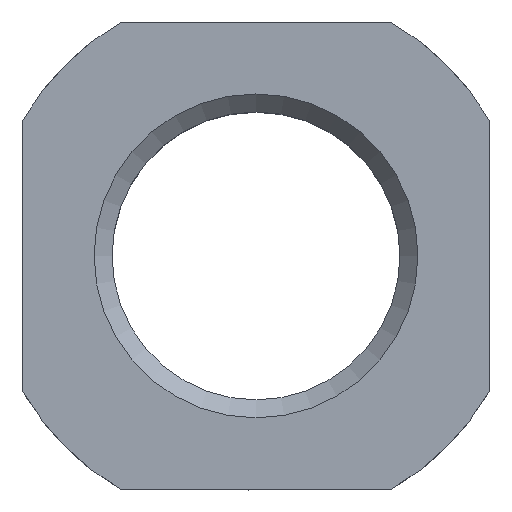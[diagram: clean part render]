
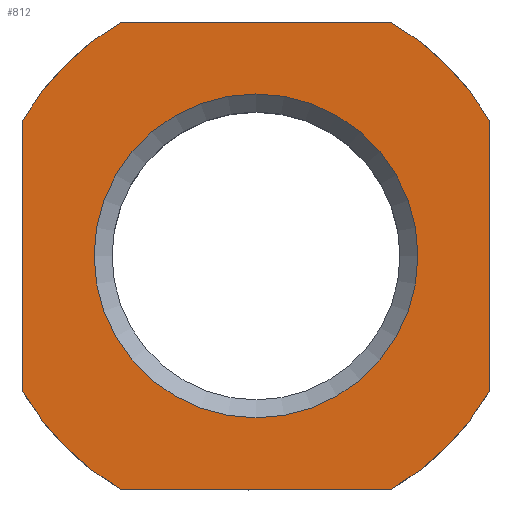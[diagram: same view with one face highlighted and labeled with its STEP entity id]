
A CAD part, top view. The second image highlights one B-rep face of the part: STEP entity #812.
In plain terms, the highlighted planar face has unit normal (0, 0, 1).
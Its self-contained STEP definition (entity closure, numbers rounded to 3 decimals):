
#9 = CARTESIAN_POINT ( 'NONE',  ( -10.242, 13., 6. ) ) ;
#17 = EDGE_CURVE ( 'NONE', #730, #458, #914, .T. ) ;
#21 = AXIS2_PLACEMENT_3D ( 'NONE', #160, #854, #777 ) ;
#25 = VECTOR ( 'NONE', #85, 1000. ) ;
#31 = EDGE_CURVE ( 'NONE', #284, #472, #981, .T. ) ;
#33 = CARTESIAN_POINT ( 'NONE',  ( -13., 0., 6. ) ) ;
#36 = CARTESIAN_POINT ( 'NONE',  ( 0., 13., 6. ) ) ;
#40 = DIRECTION ( 'NONE',  ( 0., 0., 1. ) ) ;
#60 = VERTEX_POINT ( 'NONE', #223 ) ;
#85 = DIRECTION ( 'NONE',  ( 0., 1., 0. ) ) ;
#100 = FACE_OUTER_BOUND ( 'NONE', #230, .T. ) ;
#108 = AXIS2_PLACEMENT_3D ( 'NONE', #33, #330, #151 ) ;
#129 = EDGE_CURVE ( 'NONE', #472, #943, #265, .T. ) ;
#135 = ORIENTED_EDGE ( 'NONE', *, *, #621, .T. ) ;
#141 = LINE ( 'NONE', #540, #929 ) ;
#142 = EDGE_CURVE ( 'NONE', #376, #376, #653, .T. ) ;
#151 = DIRECTION ( 'NONE',  ( 1., 0., 0. ) ) ;
#160 = CARTESIAN_POINT ( 'NONE',  ( -6.5, 6.5, 6. ) ) ;
#174 = VECTOR ( 'NONE', #568, 1000. ) ;
#190 = VECTOR ( 'NONE', #870, 1000. ) ;
#192 = DIRECTION ( 'NONE',  ( 1., 0., 0. ) ) ;
#202 = DIRECTION ( 'NONE',  ( 1., 0., 0. ) ) ;
#223 = CARTESIAN_POINT ( 'NONE',  ( 0., 2.758, 6. ) ) ;
#230 = EDGE_LOOP ( 'NONE', ( #905, #648, #896, #305, #135, #508, #281, #353 ) ) ;
#238 = CIRCLE ( 'NONE', #21, 7.5 ) ;
#260 = DIRECTION ( 'NONE',  ( 0., 0., -1. ) ) ;
#265 = LINE ( 'NONE', #708, #190 ) ;
#268 = LINE ( 'NONE', #413, #174 ) ;
#281 = ORIENTED_EDGE ( 'NONE', *, *, #657, .T. ) ;
#284 = VERTEX_POINT ( 'NONE', #539 ) ;
#291 = AXIS2_PLACEMENT_3D ( 'NONE', #358, #566, #715 ) ;
#305 = ORIENTED_EDGE ( 'NONE', *, *, #460, .T. ) ;
#330 = DIRECTION ( 'NONE',  ( 0., 0., 1. ) ) ;
#353 = ORIENTED_EDGE ( 'NONE', *, *, #874, .T. ) ;
#358 = CARTESIAN_POINT ( 'NONE',  ( -6.5, 6.5, 6. ) ) ;
#365 = VERTEX_POINT ( 'NONE', #926 ) ;
#376 = VERTEX_POINT ( 'NONE', #443 ) ;
#389 = EDGE_CURVE ( 'NONE', #60, #284, #855, .T. ) ;
#394 = CARTESIAN_POINT ( 'NONE',  ( -2.758, 0., 6. ) ) ;
#413 = CARTESIAN_POINT ( 'NONE',  ( -13., 13., 6. ) ) ;
#421 = DIRECTION ( 'NONE',  ( 1., 0., 0. ) ) ;
#443 = CARTESIAN_POINT ( 'NONE',  ( -2., 6.5, 6. ) ) ;
#458 = VERTEX_POINT ( 'NONE', #613 ) ;
#460 = EDGE_CURVE ( 'NONE', #943, #365, #465, .T. ) ;
#465 = CIRCLE ( 'NONE', #479, 7.5 ) ;
#472 = VERTEX_POINT ( 'NONE', #886 ) ;
#475 = PLANE ( 'NONE',  #108 ) ;
#479 = AXIS2_PLACEMENT_3D ( 'NONE', #714, #40, #421 ) ;
#508 = ORIENTED_EDGE ( 'NONE', *, *, #17, .T. ) ;
#523 = EDGE_LOOP ( 'NONE', ( #811 ) ) ;
#539 = CARTESIAN_POINT ( 'NONE',  ( 0., 10.242, 6. ) ) ;
#540 = CARTESIAN_POINT ( 'NONE',  ( -13., 0., 6. ) ) ;
#558 = AXIS2_PLACEMENT_3D ( 'NONE', #867, #587, #202 ) ;
#566 = DIRECTION ( 'NONE',  ( 0., 0., 1. ) ) ;
#568 = DIRECTION ( 'NONE',  ( 0., -1., 0. ) ) ;
#570 = CARTESIAN_POINT ( 'NONE',  ( -6.5, 6.5, 6. ) ) ;
#587 = DIRECTION ( 'NONE',  ( 0., 0., 1. ) ) ;
#613 = CARTESIAN_POINT ( 'NONE',  ( -10.242, 0., 6. ) ) ;
#621 = EDGE_CURVE ( 'NONE', #365, #730, #268, .T. ) ;
#648 = ORIENTED_EDGE ( 'NONE', *, *, #31, .T. ) ;
#653 = CIRCLE ( 'NONE', #810, 4.5 ) ;
#657 = EDGE_CURVE ( 'NONE', #458, #801, #141, .T. ) ;
#708 = CARTESIAN_POINT ( 'NONE',  ( -13., 13., 6. ) ) ;
#714 = CARTESIAN_POINT ( 'NONE',  ( -6.5, 6.5, 6. ) ) ;
#715 = DIRECTION ( 'NONE',  ( 1., 0., 0. ) ) ;
#730 = VERTEX_POINT ( 'NONE', #775 ) ;
#775 = CARTESIAN_POINT ( 'NONE',  ( -13., 2.758, 6. ) ) ;
#777 = DIRECTION ( 'NONE',  ( 1., 0., 0. ) ) ;
#801 = VERTEX_POINT ( 'NONE', #394 ) ;
#810 = AXIS2_PLACEMENT_3D ( 'NONE', #570, #260, #192 ) ;
#811 = ORIENTED_EDGE ( 'NONE', *, *, #142, .T. ) ;
#812 = ADVANCED_FACE ( 'NONE', ( #852, #100 ), #475, .T. ) ;
#852 = FACE_BOUND ( 'NONE', #523, .T. ) ;
#854 = DIRECTION ( 'NONE',  ( 0., 0., 1. ) ) ;
#855 = LINE ( 'NONE', #36, #25 ) ;
#867 = CARTESIAN_POINT ( 'NONE',  ( -6.5, 6.5, 6. ) ) ;
#870 = DIRECTION ( 'NONE',  ( -1., 0., 0. ) ) ;
#874 = EDGE_CURVE ( 'NONE', #801, #60, #238, .T. ) ;
#886 = CARTESIAN_POINT ( 'NONE',  ( -2.758, 13., 6. ) ) ;
#896 = ORIENTED_EDGE ( 'NONE', *, *, #129, .T. ) ;
#905 = ORIENTED_EDGE ( 'NONE', *, *, #389, .T. ) ;
#914 = CIRCLE ( 'NONE', #558, 7.5 ) ;
#926 = CARTESIAN_POINT ( 'NONE',  ( -13., 10.242, 6. ) ) ;
#929 = VECTOR ( 'NONE', #977, 1000. ) ;
#943 = VERTEX_POINT ( 'NONE', #9 ) ;
#977 = DIRECTION ( 'NONE',  ( 1., 0., 0. ) ) ;
#981 = CIRCLE ( 'NONE', #291, 7.5 ) ;
